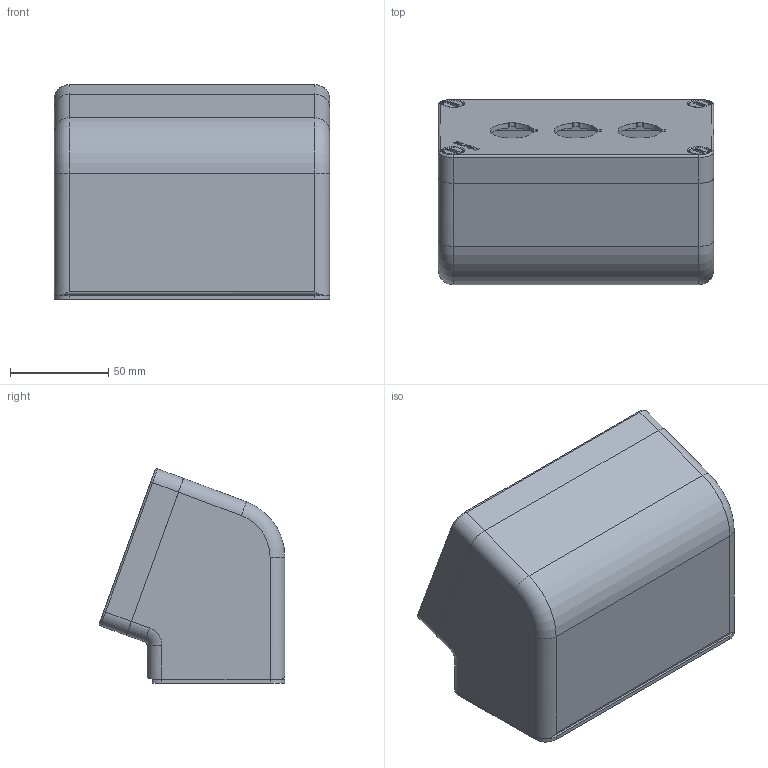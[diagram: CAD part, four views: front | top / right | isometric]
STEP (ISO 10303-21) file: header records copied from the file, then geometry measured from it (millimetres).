
FILE_DESCRIPTION (( 'STEP AP214' ), '1' );
FILE_NAME ('040L0814-8EP3L.STEP', '2018-10-03T09:12:47', ( '' ), ( '' ), 'SwSTEP 2.0', 'SolidWorks 2013', '' );
FILE_SCHEMA (( 'AUTOMOTIVE_DESIGN' ));
Length unit declared in the file: millimetre
Products named in the file (1): 040L0814-8EP3L
Bounding box: 140 x 94.41 x 109.11 mm (x, y, z)
Volume: 285547.5 mm3; surface area: 143549.8 mm2
Topology: 7 solids, 7 shells, 586 faces, 1490 edges, 944 vertices
Faces by surface type: cylinder 260, plane 244, torus 80, bspline 2
Entity records: 24119 total; most frequent: CARTESIAN_POINT 3552, DIRECTION 3137, ORIENTED_EDGE 2980, EDGE_CURVE 1490, AXIS2_PLACEMENT_3D 1146, VERTEX_POINT 944, VECTOR 845, LINE 845
